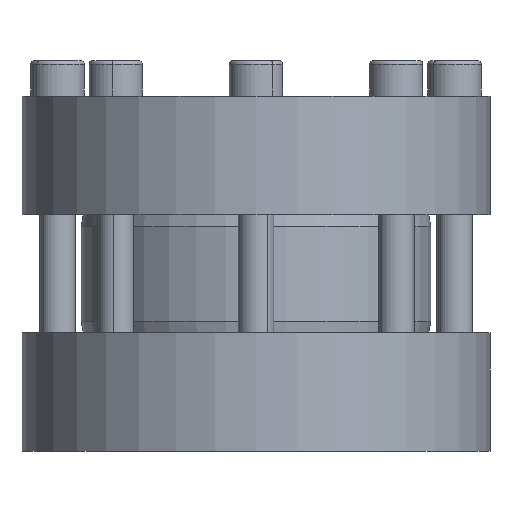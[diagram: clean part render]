
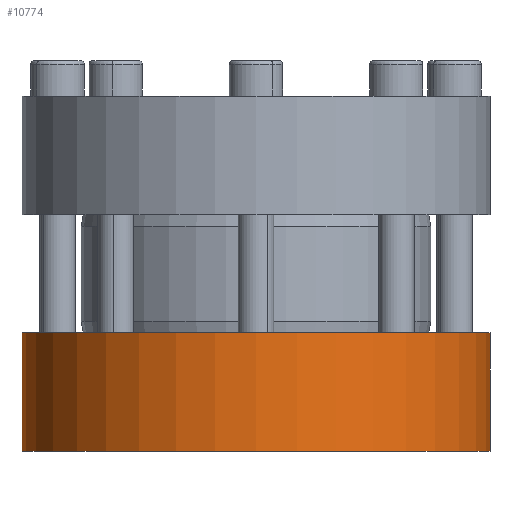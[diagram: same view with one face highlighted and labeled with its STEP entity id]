
A CAD part, front view. The second image highlights one B-rep face of the part: STEP entity #10774.
In plain terms, the highlighted cylindrical face has radius 79 mm (diameter 158 mm), a partial arc.
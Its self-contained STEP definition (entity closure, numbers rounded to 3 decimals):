
#578 = CARTESIAN_POINT ( 'NONE',  ( 79., 0., 261.5 ) ) ;
#693 = DIRECTION ( 'NONE',  ( 0., 0., -1. ) ) ;
#732 = CARTESIAN_POINT ( 'NONE',  ( -79., 0., 261.5 ) ) ;
#1333 = VECTOR ( 'NONE', #9640, 1000. ) ;
#2073 = DIRECTION ( 'NONE',  ( -1., 0., 0. ) ) ;
#3098 = CARTESIAN_POINT ( 'NONE',  ( -79., 0., -1.946 ) ) ;
#3267 = AXIS2_PLACEMENT_3D ( 'NONE', #10739, #5246, #11637 ) ;
#4085 = ORIENTED_EDGE ( 'NONE', *, *, #7686, .F. ) ;
#4585 = VERTEX_POINT ( 'NONE', #3098 ) ;
#4679 = VERTEX_POINT ( 'NONE', #6783 ) ;
#4711 = ORIENTED_EDGE ( 'NONE', *, *, #11190, .T. ) ;
#4955 = ORIENTED_EDGE ( 'NONE', *, *, #11640, .T. ) ;
#4981 = DIRECTION ( 'NONE',  ( 0., 0., -1. ) ) ;
#5084 = CARTESIAN_POINT ( 'NONE',  ( 79., 0., 38.054 ) ) ;
#5246 = DIRECTION ( 'NONE',  ( 0., 0., -1. ) ) ;
#5475 = EDGE_CURVE ( 'NONE', #9658, #4679, #6141, .T. ) ;
#5844 = CIRCLE ( 'NONE', #11220, 79. ) ;
#5871 = CARTESIAN_POINT ( 'NONE',  ( -79., 0., 38.054 ) ) ;
#6141 = LINE ( 'NONE', #578, #1333 ) ;
#6783 = CARTESIAN_POINT ( 'NONE',  ( 79., 0., -1.946 ) ) ;
#7214 = CYLINDRICAL_SURFACE ( 'NONE', #7984, 79. ) ;
#7216 = ORIENTED_EDGE ( 'NONE', *, *, #5475, .F. ) ;
#7277 = LINE ( 'NONE', #732, #8414 ) ;
#7487 = CARTESIAN_POINT ( 'NONE',  ( 0., 0., 261.5 ) ) ;
#7686 = EDGE_CURVE ( 'NONE', #4679, #4585, #5844, .T. ) ;
#7984 = AXIS2_PLACEMENT_3D ( 'NONE', #7487, #10213, #2073 ) ;
#8414 = VECTOR ( 'NONE', #693, 1000. ) ;
#9640 = DIRECTION ( 'NONE',  ( 0., 0., -1. ) ) ;
#9658 = VERTEX_POINT ( 'NONE', #5084 ) ;
#10213 = DIRECTION ( 'NONE',  ( 0., 0., -1. ) ) ;
#10463 = CARTESIAN_POINT ( 'NONE',  ( 0., 0., -1.946 ) ) ;
#10504 = FACE_OUTER_BOUND ( 'NONE', #10685, .T. ) ;
#10685 = EDGE_LOOP ( 'NONE', ( #7216, #4711, #4955, #4085 ) ) ;
#10739 = CARTESIAN_POINT ( 'NONE',  ( 0., 0., 38.054 ) ) ;
#10774 = ADVANCED_FACE ( 'NONE', ( #10504 ), #7214, .T. ) ;
#10916 = CIRCLE ( 'NONE', #3267, 79. ) ;
#11190 = EDGE_CURVE ( 'NONE', #9658, #11529, #10916, .T. ) ;
#11220 = AXIS2_PLACEMENT_3D ( 'NONE', #10463, #4981, #11352 ) ;
#11352 = DIRECTION ( 'NONE',  ( -1., 0., 0. ) ) ;
#11529 = VERTEX_POINT ( 'NONE', #5871 ) ;
#11637 = DIRECTION ( 'NONE',  ( 1., 0., 0. ) ) ;
#11640 = EDGE_CURVE ( 'NONE', #11529, #4585, #7277, .T. ) ;
